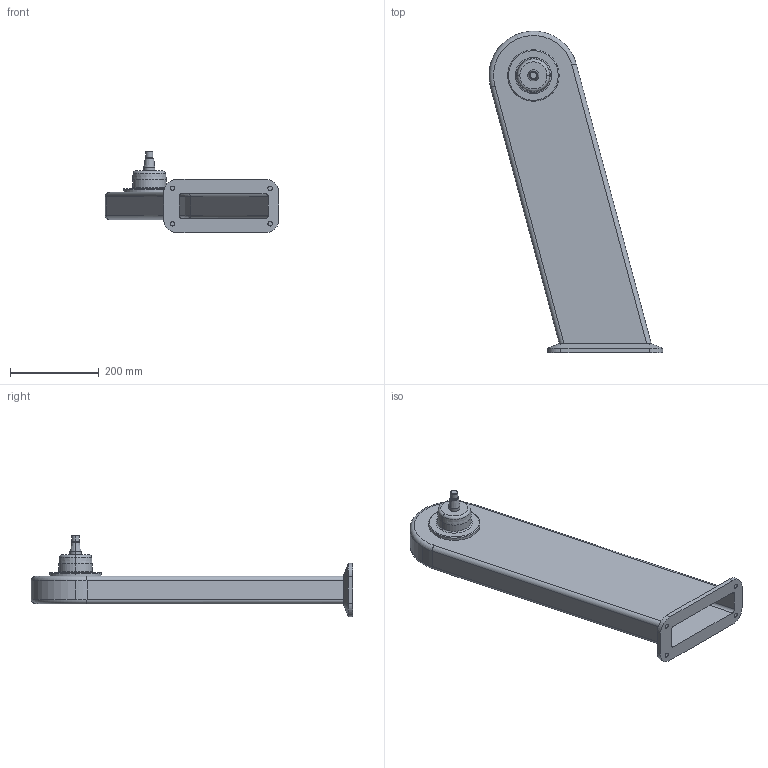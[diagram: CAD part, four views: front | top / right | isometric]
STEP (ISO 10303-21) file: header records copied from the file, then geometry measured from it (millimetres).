
FILE_DESCRIPTION (( 'STEP AP214' ), '1' );
FILE_NAME ('WP800_H625_-15.STEP', '2014-06-26T12:20:01', ( '' ), ( '' ), 'SwSTEP 2.0', 'SolidWorks 2014', '' );
FILE_SCHEMA (( 'AUTOMOTIVE_DESIGN' ));
Length unit declared in the file: millimetre
Products named in the file (1): WP800_H625_-15
Bounding box: 392.11 x 724.89 x 183.29 mm (x, y, z)
Volume: 1674791.3 mm3; surface area: 791214 mm2
Topology: 1 solids, 1 shells, 90 faces, 196 edges, 118 vertices
Faces by surface type: cylinder 38, plane 26, cone 16, torus 10
Entity records: 2490 total; most frequent: DIRECTION 466, CARTESIAN_POINT 429, ORIENTED_EDGE 392, EDGE_CURVE 196, AXIS2_PLACEMENT_3D 187, VERTEX_POINT 118, EDGE_LOOP 102, CIRCLE 96
